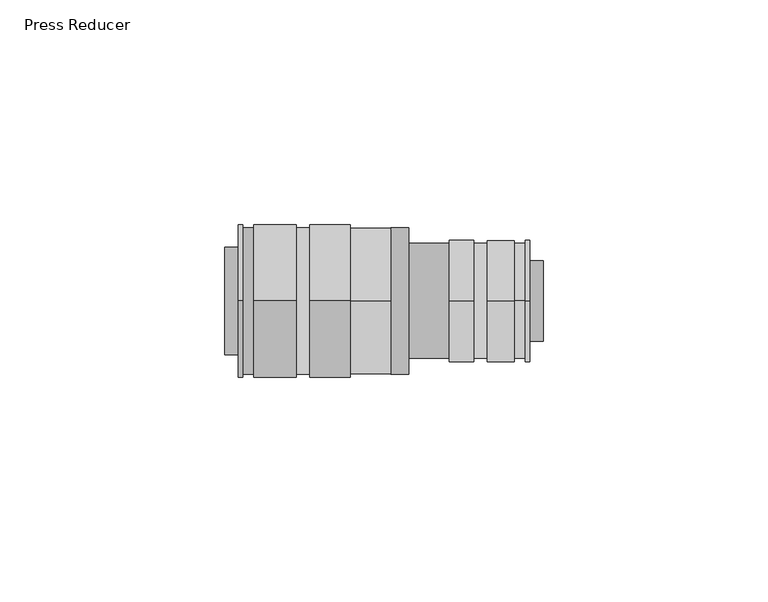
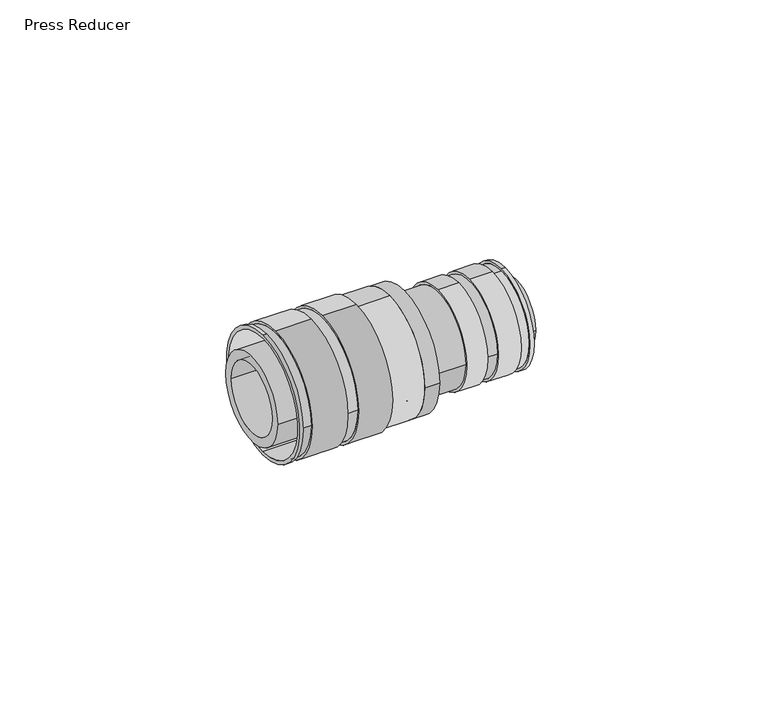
"""IFC4 building model written with IfcOpenShell, lengths in millimetres: pipe fitting geometry, Press Reducer : Superpipe Press Reducer."""

from ifc_helpers import new_model, si_unit, point, frame, frame_2d, origin, place, context, project, spatial, polyline, circle_curve, trimmed, segment, composite_curve, outline, extrude, source, transform, mapped, element, save
from ifc_brep_helpers import plane_surface, cylinder_surface, revolved_surface, advanced_brep


def press_reducer_fd3fb0bc(model_context):
    return source(origin(), model_context, "Body", "SolidModel", [
        advanced_brep(
        [(3.0, 0.0, -17.0), (3.0, 0.0, 17.0), (3.0, 0.0, -16.0), (3.0, 0.0, 16.0), (37.0, 0.0, -16.3), (37.0, 0.0, 16.3), (37.0, 0.0, -16.0), (37.0, 0.0, 16.0), (4.0, 0.0, -17.0), (4.0, -17.0, 0.0), (4.0, 0.0, 17.0), (28.0, 0.0, -17.0), (28.0, 0.0, 17.0), (19.0, 0.0, 17.0), (19.0, -17.0, 0.0), (19.0, 0.0, -17.0), (16.0, 0.0, -17.0), (16.0, -17.0, 0.0), (16.0, 0.0, 17.0), (6.5, 0.0, 17.0), (6.5, -17.0, 0.0), (6.5, 0.0, -17.0), (4.0, 17.0, 0.0), (19.0, 17.0, 0.0), (16.0, 17.0, 0.0), (6.5, 17.0, 0.0), (28.0, 0.0, -16.3), (28.0, 0.0, 16.3), (16.0, 16.3, 0.0), (16.0, -16.3, 0.0), (19.0, 16.3, 0.0), (19.0, -16.3, 0.0), (6.5, -16.3, 0.0), (6.5, 16.3, 0.0), (4.0, -16.3, 0.0), (4.0, 16.3, 0.0)],
        [
            (0, 1, circle_curve(frame((3.0, 0.0, 0.0), z_axis=(-1.0, 0.0, 0.0), x_axis=(0.0, 0.0, 1.0)), 17.0)),
            (1, 0, circle_curve(frame((3.0, 0.0, 0.0), z_axis=(-1.0, 0.0, 0.0), x_axis=(0.0, 0.0, 1.0)), 17.0)),
            (2, 3, circle_curve(frame((3.0, 0.0, 0.0), z_axis=(1.0, 0.0, 0.0), x_axis=(0.0, 0.0, 1.0)), 16.0)),
            (3, 2, circle_curve(frame((3.0, 0.0, 0.0), z_axis=(1.0, 0.0, 0.0), x_axis=(0.0, 0.0, 1.0)), 16.0)),
            (4, 5, circle_curve(frame((37.0, 0.0, 0.0), z_axis=(1.0, 0.0, 0.0), x_axis=(0.0, 0.0, 1.0)), 16.3)),
            (5, 4, circle_curve(frame((37.0, 0.0, 0.0), z_axis=(1.0, 0.0, 0.0), x_axis=(0.0, 0.0, 1.0)), 16.3)),
            (6, 7, circle_curve(frame((37.0, 0.0, 0.0), z_axis=(-1.0, 0.0, 0.0), x_axis=(0.0, 0.0, 1.0)), 16.0)),
            (7, 6, circle_curve(frame((37.0, 0.0, 0.0), z_axis=(-1.0, 0.0, 0.0), x_axis=(0.0, 0.0, 1.0)), 16.0)),
            (0, 8),
            (8, 9, circle_curve(frame((4.0, 0.0, 0.0), z_axis=(-1.0, 0.0, 0.0), x_axis=(0.0, 0.0, 1.0)), 17.0)),
            (9, 10, circle_curve(frame((4.0, 0.0, 0.0), z_axis=(-1.0, 0.0, 0.0), x_axis=(0.0, 0.0, 1.0)), 17.0)),
            (10, 1),
            (11, 12, circle_curve(frame((28.0, 0.0, 0.0), z_axis=(-1.0, 0.0, 0.0), x_axis=(0.0, 0.0, 1.0)), 17.0)),
            (12, 13),
            (13, 14, circle_curve(frame((19.0, 0.0, 0.0), z_axis=(1.0, 0.0, 0.0), x_axis=(0.0, 0.0, 1.0)), 17.0)),
            (14, 15, circle_curve(frame((19.0, 0.0, 0.0), z_axis=(1.0, 0.0, 0.0), x_axis=(0.0, 0.0, 1.0)), 17.0)),
            (15, 11),
            (16, 17, circle_curve(frame((16.0, 0.0, 0.0), z_axis=(-1.0, 0.0, 0.0), x_axis=(0.0, 0.0, 1.0)), 17.0)),
            (17, 18, circle_curve(frame((16.0, 0.0, 0.0), z_axis=(-1.0, 0.0, 0.0), x_axis=(0.0, 0.0, 1.0)), 17.0)),
            (18, 19),
            (19, 20, circle_curve(frame((6.5, 0.0, 0.0), z_axis=(1.0, 0.0, 0.0), x_axis=(0.0, 0.0, 1.0)), 17.0)),
            (20, 21, circle_curve(frame((6.5, 0.0, 0.0), z_axis=(1.0, 0.0, 0.0), x_axis=(0.0, 0.0, 1.0)), 17.0)),
            (21, 16),
            (10, 22, circle_curve(frame((4.0, 0.0, 0.0), z_axis=(-1.0, 0.0, 0.0), x_axis=(0.0, 0.0, 1.0)), 17.0)),
            (22, 8, circle_curve(frame((4.0, 0.0, 0.0), z_axis=(-1.0, 0.0, 0.0), x_axis=(0.0, 0.0, 1.0)), 17.0)),
            (12, 11, circle_curve(frame((28.0, 0.0, 0.0), z_axis=(-1.0, 0.0, 0.0), x_axis=(0.0, 0.0, 1.0)), 17.0)),
            (15, 23, circle_curve(frame((19.0, 0.0, 0.0), z_axis=(1.0, 0.0, 0.0), x_axis=(0.0, 0.0, 1.0)), 17.0)),
            (23, 13, circle_curve(frame((19.0, 0.0, 0.0), z_axis=(1.0, 0.0, 0.0), x_axis=(0.0, 0.0, 1.0)), 17.0)),
            (24, 16, circle_curve(frame((16.0, 0.0, 0.0), z_axis=(-1.0, 0.0, 0.0), x_axis=(0.0, 0.0, 1.0)), 17.0)),
            (21, 25, circle_curve(frame((6.5, 0.0, 0.0), z_axis=(1.0, 0.0, 0.0), x_axis=(0.0, 0.0, 1.0)), 17.0)),
            (25, 19, circle_curve(frame((6.5, 0.0, 0.0), z_axis=(1.0, 0.0, 0.0), x_axis=(0.0, 0.0, 1.0)), 17.0)),
            (18, 24, circle_curve(frame((16.0, 0.0, 0.0), z_axis=(-1.0, 0.0, 0.0), x_axis=(0.0, 0.0, 1.0)), 17.0)),
            (2, 6),
            (7, 3),
            (26, 27, circle_curve(frame((28.0, 0.0, 0.0), z_axis=(-1.0, 0.0, 0.0), x_axis=(0.0, 0.0, 1.0)), 16.3)),
            (27, 26, circle_curve(frame((28.0, 0.0, 0.0), z_axis=(-1.0, 0.0, 0.0), x_axis=(0.0, 0.0, 1.0)), 16.3)),
            (27, 5),
            (4, 26),
            (28, 29, circle_curve(frame((16.0, 0.0, 0.0), z_axis=(-1.0, 0.0, 0.0), x_axis=(0.0, -1.0, 0.0)), 16.3)),
            (29, 28, circle_curve(frame((16.0, 0.0, 0.0), z_axis=(-1.0, 0.0, 0.0), x_axis=(0.0, -1.0, 0.0)), 16.3)),
            (30, 31, circle_curve(frame((19.0, 0.0, 0.0), z_axis=(1.0, 0.0, 0.0), x_axis=(0.0, -1.0, 0.0)), 16.3)),
            (31, 30, circle_curve(frame((19.0, 0.0, 0.0), z_axis=(1.0, 0.0, 0.0), x_axis=(0.0, -1.0, 0.0)), 16.3)),
            (29, 31),
            (30, 28),
            (32, 33, circle_curve(frame((6.5, 0.0, 0.0), z_axis=(1.0, 0.0, 0.0), x_axis=(0.0, 1.0, 0.0)), 16.3)),
            (33, 32, circle_curve(frame((6.5, 0.0, 0.0), z_axis=(1.0, 0.0, 0.0), x_axis=(0.0, 1.0, 0.0)), 16.3)),
            (34, 35, circle_curve(frame((4.0, 0.0, 0.0), z_axis=(-1.0, 0.0, 0.0), x_axis=(0.0, 1.0, 0.0)), 16.3)),
            (35, 34, circle_curve(frame((4.0, 0.0, 0.0), z_axis=(-1.0, 0.0, 0.0), x_axis=(0.0, 1.0, 0.0)), 16.3)),
            (33, 35),
            (34, 32),
        ],
        [
            plane_surface(frame((3.0, 0.0, 17.0), z_axis=(-1.0, 0.0, 0.0), x_axis=(0.0, 1.0, 0.0))),
            plane_surface(frame((37.0, 0.0, 17.0), z_axis=(1.0, 0.0, 0.0), x_axis=(0.0, -1.0, 0.0))),
            cylinder_surface(frame((37.0, 0.0, 0.0), z_axis=(-1.0, 0.0, 0.0), x_axis=(0.0, 0.0, 1.0)), 17.0),
            revolved_surface(polyline([(37.0, 0.0, 16.0), (3.0, 0.0, 16.0)]), (37.0, 0.0, 0.0), (1.0, 0.0, 0.0)),
            plane_surface(frame((28.0, 0.0, 17.0), z_axis=(1.0, 0.0, 0.0), x_axis=(0.0, 1.0, 0.0))),
            cylinder_surface(frame((37.0, 0.0, 0.0), z_axis=(1.0, 0.0, 0.0), x_axis=(0.0, 0.0, 1.0)), 16.3),
            plane_surface(frame((16.0, -17.0, 0.0), z_axis=(1.0, 0.0, 0.0), x_axis=(0.0, 0.0, 1.0))),
            plane_surface(frame((19.0, -17.0, 0.0), z_axis=(-1.0, 0.0, 0.0), x_axis=(0.0, 0.0, -1.0))),
            cylinder_surface(frame((19.0, 0.0, 0.0), z_axis=(1.0, 0.0, 0.0), x_axis=(0.0, -1.0, 0.0)), 16.3),
            plane_surface(frame((6.5, 17.0, 0.0), z_axis=(-1.0, 0.0, 0.0), x_axis=(0.0, 0.0, 1.0))),
            plane_surface(frame((4.0, 17.0, 0.0), z_axis=(1.0, 0.0, 0.0), x_axis=(0.0, 0.0, -1.0))),
            cylinder_surface(frame((3.0, 0.0, 0.0), z_axis=(-1.0, 0.0, 0.0), x_axis=(0.0, 1.0, 0.0)), 16.3),
        ],
        [
            (0, [[1, 2], [3, 4]]),
            (1, [[5, 6], [7, 8]]),
            (2, [[-1, 9, 10, 11, 12]]),
            (2, [[13, 14, 15, 16, 17]]),
            (2, [[18, 19, 20, 21, 22, 23]]),
            (2, [[-2, -12, 24, 25, -9]]),
            (2, [[26, -17, 27, 28, -14]]),
            (2, [[29, -23, 30, 31, -20, 32]]),
            (3, [[-3, 33, -8, 34]]),
            (3, [[-4, -34, -7, -33]]),
            (4, [[-13, -26], [35, 36]]),
            (5, [[-36, 37, -5, 38]]),
            (5, [[-35, -38, -6, -37]]),
            (6, [[-18, -29, -32, -19], [39, 40]]),
            (7, [[-16, -15, -28, -27], [41, 42]]),
            (8, [[-40, 43, -41, 44]]),
            (8, [[-39, -44, -42, -43]]),
            (9, [[-22, -21, -31, -30], [45, 46]]),
            (10, [[-10, -25, -24, -11], [47, 48]]),
            (11, [[-46, 49, -47, 50]]),
            (11, [[-45, -50, -48, -49]]),
        ],
    ),
        advanced_brep(
        [(68.0, 0.0, -13.5), (68.0, 0.0, 13.5), (68.0, 0.0, -12.5), (68.0, 0.0, 12.5), (41.0, -12.8, 0.0), (41.0, 12.8, 0.0), (41.0, 0.0, -12.5), (41.0, 0.0, 12.5), (67.0, 0.0, -13.5), (67.0, 0.0, 13.5), (50.0, 0.0, -13.5), (50.0, 13.5, 0.0), (50.0, 0.0, 13.5), (55.5, 0.0, 13.5), (55.5, 13.5, 0.0), (55.5, 0.0, -13.5), (64.5, 0.0, 13.5), (64.5, 0.0, -13.5), (58.5, 0.0, -13.5), (58.5, 13.5, 0.0), (58.5, 0.0, 13.5), (50.0, -13.5, 0.0), (55.5, -13.5, 0.0), (58.5, -13.5, 0.0), (50.0, -12.8, 0.0), (50.0, 12.8, 0.0), (64.5, 0.0, 12.8), (64.5, 0.0, -12.8), (67.0, 0.0, 12.8), (67.0, 0.0, -12.8), (55.5, 12.8, 0.0), (55.5, -12.8, 0.0), (58.5, 12.8, 0.0), (58.5, -12.8, 0.0)],
        [
            (0, 1, circle_curve(frame((68.0, 0.0, 0.0), z_axis=(1.0, 0.0, 0.0), x_axis=(0.0, 0.0, 1.0)), 13.5)),
            (1, 0, circle_curve(frame((68.0, 0.0, 0.0), z_axis=(1.0, 0.0, 0.0), x_axis=(0.0, 0.0, 1.0)), 13.5)),
            (2, 3, circle_curve(frame((68.0, 0.0, 0.0), z_axis=(-1.0, 0.0, 0.0), x_axis=(0.0, 0.0, 1.0)), 12.5)),
            (3, 2, circle_curve(frame((68.0, 0.0, 0.0), z_axis=(-1.0, 0.0, 0.0), x_axis=(0.0, 0.0, 1.0)), 12.5)),
            (4, 5, circle_curve(frame((41.0, 0.0, 0.0), z_axis=(-1.0, 0.0, 0.0), x_axis=(0.0, 1.0, 0.0)), 12.8)),
            (5, 4, circle_curve(frame((41.0, 0.0, 0.0), z_axis=(-1.0, 0.0, 0.0), x_axis=(0.0, 1.0, 0.0)), 12.8)),
            (6, 7, circle_curve(frame((41.0, 0.0, 0.0), z_axis=(1.0, 0.0, 0.0), x_axis=(0.0, 0.0, 1.0)), 12.5)),
            (7, 6, circle_curve(frame((41.0, 0.0, 0.0), z_axis=(1.0, 0.0, 0.0), x_axis=(0.0, 0.0, 1.0)), 12.5)),
            (0, 8),
            (8, 9, circle_curve(frame((67.0, 0.0, 0.0), z_axis=(1.0, 0.0, 0.0), x_axis=(0.0, 0.0, 1.0)), 13.5)),
            (9, 1),
            (10, 11, circle_curve(frame((50.0, 0.0, 0.0), z_axis=(1.0, 0.0, 0.0), x_axis=(0.0, 0.0, 1.0)), 13.5)),
            (11, 12, circle_curve(frame((50.0, 0.0, 0.0), z_axis=(1.0, 0.0, 0.0), x_axis=(0.0, 0.0, 1.0)), 13.5)),
            (12, 13),
            (13, 14, circle_curve(frame((55.5, 0.0, 0.0), z_axis=(-1.0, 0.0, 0.0), x_axis=(0.0, 0.0, 1.0)), 13.5)),
            (14, 15, circle_curve(frame((55.5, 0.0, 0.0), z_axis=(-1.0, 0.0, 0.0), x_axis=(0.0, 0.0, 1.0)), 13.5)),
            (15, 10),
            (16, 17, circle_curve(frame((64.5, 0.0, 0.0), z_axis=(-1.0, 0.0, 0.0), x_axis=(0.0, 0.0, 1.0)), 13.5)),
            (17, 18),
            (18, 19, circle_curve(frame((58.5, 0.0, 0.0), z_axis=(1.0, 0.0, 0.0), x_axis=(0.0, 0.0, 1.0)), 13.5)),
            (19, 20, circle_curve(frame((58.5, 0.0, 0.0), z_axis=(1.0, 0.0, 0.0), x_axis=(0.0, 0.0, 1.0)), 13.5)),
            (20, 16),
            (9, 8, circle_curve(frame((67.0, 0.0, 0.0), z_axis=(1.0, 0.0, 0.0), x_axis=(0.0, 0.0, 1.0)), 13.5)),
            (21, 10, circle_curve(frame((50.0, 0.0, 0.0), z_axis=(1.0, 0.0, 0.0), x_axis=(0.0, 0.0, 1.0)), 13.5)),
            (15, 22, circle_curve(frame((55.5, 0.0, 0.0), z_axis=(-1.0, 0.0, 0.0), x_axis=(0.0, 0.0, 1.0)), 13.5)),
            (22, 13, circle_curve(frame((55.5, 0.0, 0.0), z_axis=(-1.0, 0.0, 0.0), x_axis=(0.0, 0.0, 1.0)), 13.5)),
            (12, 21, circle_curve(frame((50.0, 0.0, 0.0), z_axis=(1.0, 0.0, 0.0), x_axis=(0.0, 0.0, 1.0)), 13.5)),
            (17, 16, circle_curve(frame((64.5, 0.0, 0.0), z_axis=(-1.0, 0.0, 0.0), x_axis=(0.0, 0.0, 1.0)), 13.5)),
            (20, 23, circle_curve(frame((58.5, 0.0, 0.0), z_axis=(1.0, 0.0, 0.0), x_axis=(0.0, 0.0, 1.0)), 13.5)),
            (23, 18, circle_curve(frame((58.5, 0.0, 0.0), z_axis=(1.0, 0.0, 0.0), x_axis=(0.0, 0.0, 1.0)), 13.5)),
            (2, 6),
            (7, 3),
            (24, 25, circle_curve(frame((50.0, 0.0, 0.0), z_axis=(1.0, 0.0, 0.0), x_axis=(0.0, 1.0, 0.0)), 12.8)),
            (25, 24, circle_curve(frame((50.0, 0.0, 0.0), z_axis=(1.0, 0.0, 0.0), x_axis=(0.0, 1.0, 0.0)), 12.8)),
            (25, 5),
            (4, 24),
            (26, 27, circle_curve(frame((64.5, 0.0, 0.0), z_axis=(-1.0, 0.0, 0.0), x_axis=(0.0, 0.0, -1.0)), 12.8)),
            (27, 26, circle_curve(frame((64.5, 0.0, 0.0), z_axis=(-1.0, 0.0, 0.0), x_axis=(0.0, 0.0, -1.0)), 12.8)),
            (28, 29, circle_curve(frame((67.0, 0.0, 0.0), z_axis=(1.0, 0.0, 0.0), x_axis=(0.0, 0.0, -1.0)), 12.8)),
            (29, 28, circle_curve(frame((67.0, 0.0, 0.0), z_axis=(1.0, 0.0, 0.0), x_axis=(0.0, 0.0, -1.0)), 12.8)),
            (27, 29),
            (28, 26),
            (30, 31, circle_curve(frame((55.5, 0.0, 0.0), z_axis=(-1.0, 0.0, 0.0), x_axis=(0.0, -1.0, 0.0)), 12.8)),
            (31, 30, circle_curve(frame((55.5, 0.0, 0.0), z_axis=(-1.0, 0.0, 0.0), x_axis=(0.0, -1.0, 0.0)), 12.8)),
            (32, 33, circle_curve(frame((58.5, 0.0, 0.0), z_axis=(1.0, 0.0, 0.0), x_axis=(0.0, -1.0, 0.0)), 12.8)),
            (33, 32, circle_curve(frame((58.5, 0.0, 0.0), z_axis=(1.0, 0.0, 0.0), x_axis=(0.0, -1.0, 0.0)), 12.8)),
            (31, 33),
            (32, 30),
        ],
        [
            plane_surface(frame((68.0, 0.0, 13.5), z_axis=(1.0, 0.0, 0.0), x_axis=(0.0, -1.0, 0.0))),
            plane_surface(frame((41.0, 0.0, 13.5), z_axis=(-1.0, 0.0, 0.0), x_axis=(0.0, 1.0, 0.0))),
            cylinder_surface(frame((41.0, 0.0, 0.0), z_axis=(1.0, 0.0, 0.0), x_axis=(0.0, 0.0, 1.0)), 13.5),
            revolved_surface(polyline([(41.0, 0.0, 12.5), (68.0, 0.0, 12.5)]), (41.0, 0.0, 0.0), (-1.0, 0.0, 0.0)),
            plane_surface(frame((50.0, 13.5, 0.0), z_axis=(-1.0, 0.0, 0.0), x_axis=(0.0, 0.0, 1.0))),
            cylinder_surface(frame((41.0, 0.0, 0.0), z_axis=(-1.0, 0.0, 0.0), x_axis=(0.0, 1.0, 0.0)), 12.8),
            plane_surface(frame((64.5, 0.0, -13.5), z_axis=(1.0, 0.0, 0.0), x_axis=(0.0, -1.0, 0.0))),
            plane_surface(frame((67.0, 0.0, -13.5), z_axis=(-1.0, 0.0, 0.0), x_axis=(0.0, 1.0, 0.0))),
            cylinder_surface(frame((68.0, 0.0, 0.0), z_axis=(1.0, 0.0, 0.0), x_axis=(0.0, 0.0, -1.0)), 12.8),
            plane_surface(frame((55.5, -13.5, 0.0), z_axis=(1.0, 0.0, 0.0), x_axis=(0.0, 0.0, 1.0))),
            plane_surface(frame((58.5, -13.5, 0.0), z_axis=(-1.0, 0.0, 0.0), x_axis=(0.0, 0.0, -1.0))),
            cylinder_surface(frame((55.5, 0.0, 0.0), z_axis=(1.0, 0.0, 0.0), x_axis=(0.0, -1.0, 0.0)), 12.8),
        ],
        [
            (0, [[1, 2], [3, 4]]),
            (1, [[5, 6], [7, 8]]),
            (2, [[-1, 9, 10, 11]]),
            (2, [[12, 13, 14, 15, 16, 17]]),
            (2, [[18, 19, 20, 21, 22]]),
            (2, [[-2, -11, 23, -9]]),
            (2, [[24, -17, 25, 26, -14, 27]]),
            (2, [[28, -22, 29, 30, -19]]),
            (3, [[-3, 31, -8, 32]]),
            (3, [[-4, -32, -7, -31]]),
            (4, [[-12, -24, -27, -13], [33, 34]]),
            (5, [[-34, 35, -5, 36]]),
            (5, [[-33, -36, -6, -35]]),
            (6, [[-18, -28], [37, 38]]),
            (7, [[-10, -23], [39, 40]]),
            (8, [[-38, 41, -39, 42]]),
            (8, [[-37, -42, -40, -41]]),
            (9, [[-16, -15, -26, -25], [43, 44]]),
            (10, [[-20, -30, -29, -21], [45, 46]]),
            (11, [[-44, 47, -45, 48]]),
            (11, [[-43, -48, -46, -47]]),
        ],
    ),
        extrude(outline(composite_curve([segment(trimmed(circle_curve(frame_2d((-0.000673, 0.0)), 9.0), [point((-9.000673, 0.0))], [point((8.999327, 0.0))], False, "CARTESIAN"), True, "CONTINUOUS"), segment(trimmed(circle_curve(frame_2d((-0.000673, 0.0)), 9.0), [point((8.999327, 0.0))], [point((-9.000673, 0.0))], False, "CARTESIAN"), True, "CONTINUOUS")], self_intersect=False), holes=[composite_curve([segment(trimmed(circle_curve(frame_2d((-0.000673, 0.0)), 7.0), [point((6.999327, 0.0))], [point((-7.000673, 0.0))], True, "CARTESIAN"), True, "CONTINUOUS"), segment(trimmed(circle_curve(frame_2d((-0.000673, 0.0)), 7.0), [point((-7.000673, 0.0))], [point((6.999327, 0.0))], True, "CARTESIAN"), True, "CONTINUOUS")], self_intersect=False)]), frame((41.0, 0.0, 0.0), z_axis=(1.0, 0.0, 0.0), x_axis=(0.0, 1.0, 0.0)), (0.0, 0.0, 1.0), 30.0),
        extrude(outline(composite_curve([segment(trimmed(circle_curve(frame_2d((-0.000673, 0.0)), 16.3), [point((-16.300673, 0.0))], [point((16.299327, 0.0))], False, "CARTESIAN"), True, "CONTINUOUS"), segment(trimmed(circle_curve(frame_2d((-0.000673, 0.0)), 16.3), [point((16.299327, 0.0))], [point((-16.300673, 0.0))], False, "CARTESIAN"), True, "CONTINUOUS")], self_intersect=False), holes=[composite_curve([segment(trimmed(circle_curve(frame_2d((-0.000673, 0.0)), 7.0), [point((6.999327, 0.0))], [point((-7.000673, 0.0))], True, "CARTESIAN"), True, "CONTINUOUS"), segment(trimmed(circle_curve(frame_2d((-0.000673, 0.0)), 7.0), [point((-7.000673, 0.0))], [point((6.999327, 0.0))], True, "CARTESIAN"), True, "CONTINUOUS")], self_intersect=False)]), frame((37.0, 0.0, 0.0), z_axis=(1.0, 0.0, 0.0), x_axis=(0.0, 1.0, 0.0)), (0.0, 0.0, 1.0), 4.0),
        extrude(outline(composite_curve([segment(trimmed(circle_curve(frame_2d((-0.000673, 0.0)), 12.0), [point((-12.000673, 0.0))], [point((11.999327, 0.0))], False, "CARTESIAN"), True, "CONTINUOUS"), segment(trimmed(circle_curve(frame_2d((-0.000673, 0.0)), 12.0), [point((11.999327, 0.0))], [point((-12.000673, 0.0))], False, "CARTESIAN"), True, "CONTINUOUS")], self_intersect=False), holes=[composite_curve([segment(trimmed(circle_curve(frame_2d((-0.000673, 0.0)), 9.5), [point((9.499327, 0.0))], [point((-9.500673, 0.0))], True, "CARTESIAN"), True, "CONTINUOUS"), segment(trimmed(circle_curve(frame_2d((-0.000673, 0.0)), 9.5), [point((-9.500673, 0.0))], [point((9.499327, 0.0))], True, "CARTESIAN"), True, "CONTINUOUS")], self_intersect=False)]), frame((0.0, 0.0, 0.0), z_axis=(1.0, 0.0, 0.0), x_axis=(0.0, 1.0, 0.0)), (0.0, 0.0, 1.0), 37.0),
    ])


if __name__ == "__main__":
    model = new_model("IFC4")
    model_context = context("Model", 3, world=origin())
    ifc_project = project(units=[si_unit("LENGTHUNIT", "METRE", prefix="MILLI")], contexts=[model_context])
    site = spatial("IfcSite", under=ifc_project)
    building = spatial("IfcBuilding", under=site)
    placement = place(None, origin())
    press_reducer_shape = press_reducer_fd3fb0bc(model_context)
    element("IfcPipeFitting", 1, ObjectType="Press Reducer : Superpipe Press Reducer", at=placement, inside=building, context=model_context, shape_type="MappedRepresentation", body=[
        mapped(press_reducer_shape, transform((0.0, 0.0, 0.0), x_axis=(1.0, 0.0, 0.0), y_axis=(0.0, 1.0, 0.0), z_axis=(0.0, 0.0, 1.0))),
    ])
    save(model, "model.ifc")
